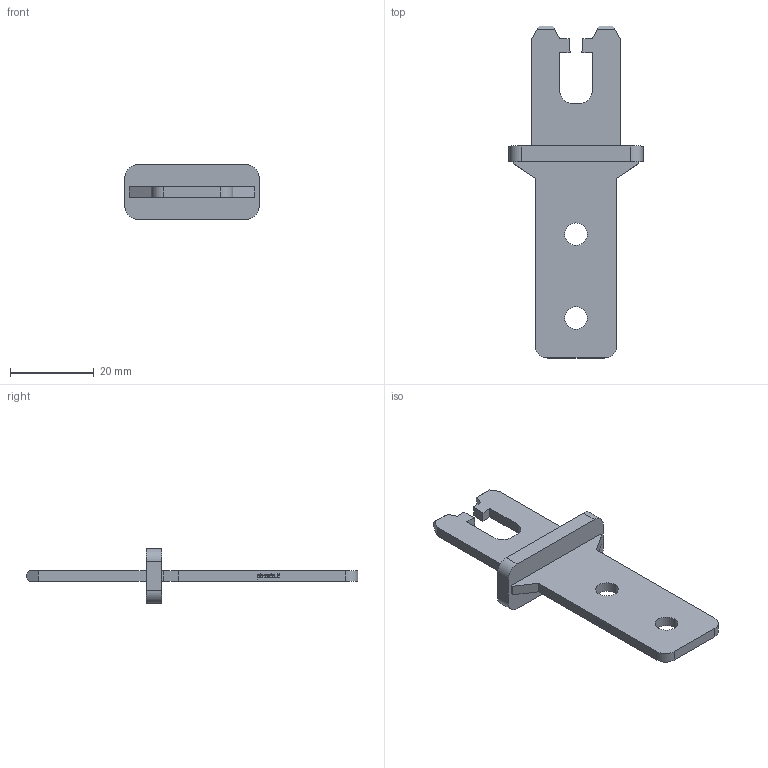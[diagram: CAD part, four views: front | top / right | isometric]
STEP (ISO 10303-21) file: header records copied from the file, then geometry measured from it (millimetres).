
FILE_DESCRIPTION (( 'STEP AP203' ), '1' );
FILE_NAME ('Pizzato_VF_KEYF20.step', '2009-01-30T01:11:27', ( 'Pizzato Elettrica Srl' ), ( '' ), 'SwSTEP 2.0', 'SolidWorks 2008', '' );
FILE_SCHEMA (( 'CONFIG_CONTROL_DESIGN' ));
Length unit declared in the file: millimetre
Products named in the file (1): Pizzato_VF_KEYF20
Bounding box: 32 x 79.1 x 13 mm (x, y, z)
Volume: 4889.1 mm3; surface area: 4372.9 mm2
Topology: 1 solids, 1 shells, 189 faces, 510 edges, 340 vertices
Faces by surface type: plane 129, bspline 48, cylinder 12
Entity records: 7993 total; most frequent: CARTESIAN_POINT 3456, ORIENTED_EDGE 1020, DIRECTION 722, EDGE_CURVE 510, VECTOR 390, LINE 390, VERTEX_POINT 340, EDGE_LOOP 210
